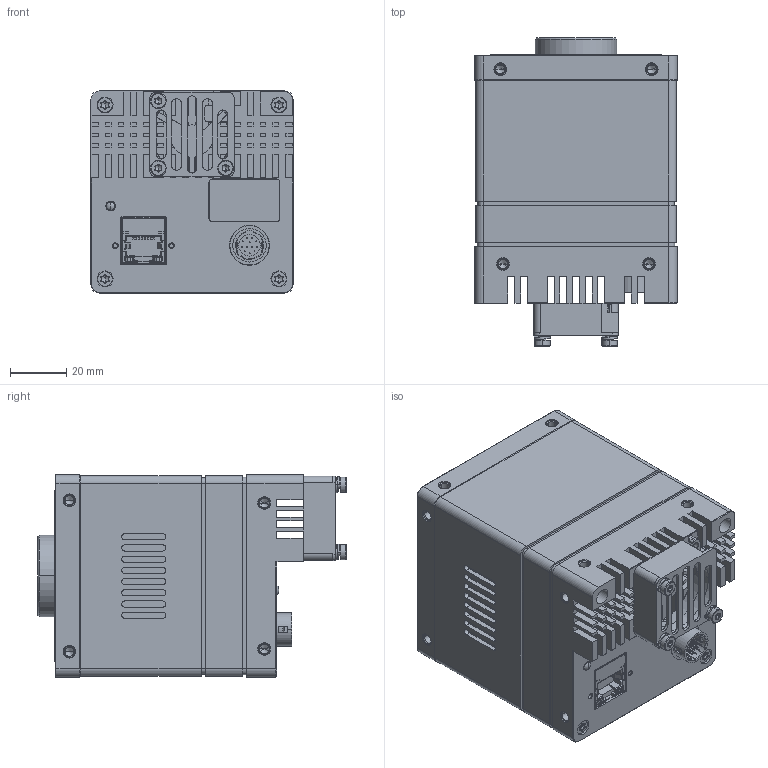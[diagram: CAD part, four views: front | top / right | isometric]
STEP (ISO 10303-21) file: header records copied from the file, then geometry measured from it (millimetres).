
FILE_DESCRIPTION((''),'2;1');
FILE_NAME('0-DH3-1878-0007_ASM_ASM','2024-01-23T11:33:34',('309376'),(''),'CREO PARAMETRIC BY PTC INC, 2020184','CREO PARAMETRIC BY PTC INC, 2020184','');
FILE_SCHEMA(('CONFIG_CONTROL_DESIGN','SHAPE_APPEARANCE_LAYERS_GROUPS'));
Products named in the file (9): DH3-3424-6010_1_1; DH3-1878-V035_ASM_1_1_ASM; DH3-1878-V032_ASM_1_1_2_ASM; DH3-1878-6012_1_1_2_3_4_5_6; DH3-1878-V006_ASM_1_1_ASM; DH3-1878-6009_1_1_2; DH3-1878-V018_ASM_1_ASM; 0-DH3-1878-0007_ASM_1_ASM; 0-DH3-1878-0007_ASM_ASM
Assembly tree (8 placements, depth 5):
  0-DH3-1878-0007_ASM_ASM
    0-DH3-1878-0007_ASM_1_ASM
      DH3-1878-V032_ASM_1_1_2_ASM
        DH3-1878-V035_ASM_1_1_ASM
          DH3-3424-6010_1_1
      DH3-1878-V018_ASM_1_ASM
        DH3-1878-V006_ASM_1_1_ASM
          DH3-1878-6012_1_1_2_3_4_5_6
        DH3-1878-6009_1_1_2
Bounding box: 72 x 109.85 x 72 mm (x, y, z)
Volume: 508826 mm3; surface area: 100009 mm2
Topology: 3 solids, 102 shells, 3029 faces, 8414 edges, 5463 vertices
Faces by surface type: plane 1518, cylinder 1033, cone 310, bspline 104, torus 58, sphere 6
Entity records: 139917 total; most frequent: CARTESIAN_POINT 30765, DIRECTION 16680, ORIENTED_EDGE 16250, PRESENTATION_STYLE_ASSIGNMENT 9020, STYLED_ITEM 8354, CURVE_STYLE 8283, EDGE_CURVE 8283, AXIS2_PLACEMENT_3D 5969
